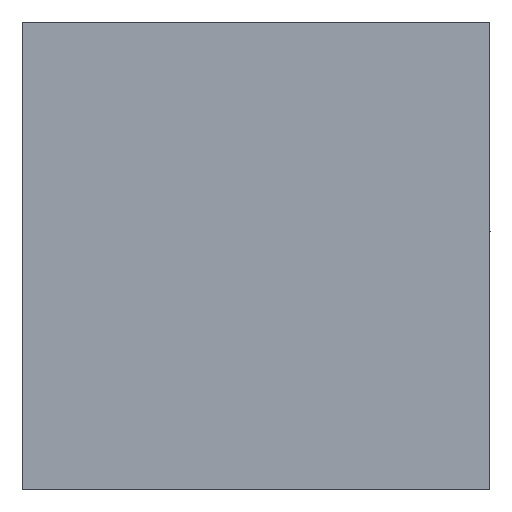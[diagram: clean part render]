
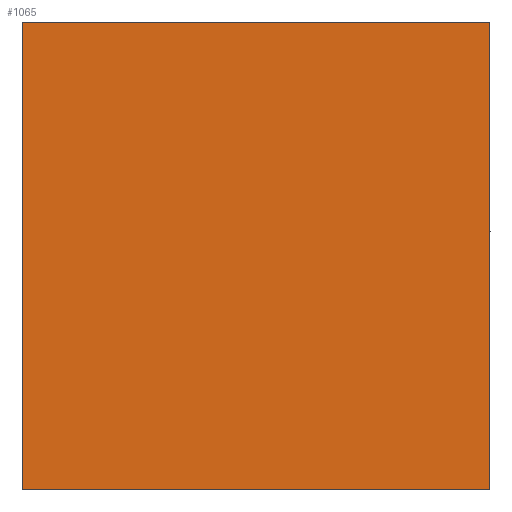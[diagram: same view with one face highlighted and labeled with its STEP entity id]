
A CAD part, front view. The second image highlights one B-rep face of the part: STEP entity #1065.
In plain terms, the highlighted planar face has unit normal (0, -1, 0).
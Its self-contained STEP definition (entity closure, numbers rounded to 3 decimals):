
#382=CARTESIAN_POINT('Vertex',(-50.,0.,50.)) ;
#385=CARTESIAN_POINT('Line Origine',(0.,0.,50.)) ;
#389=CARTESIAN_POINT('Vertex',(50.,0.,50.)) ;
#414=CARTESIAN_POINT('Vertex',(50.,0.,-50.)) ;
#417=CARTESIAN_POINT('Line Origine',(50.,0.,0.)) ;
#766=CARTESIAN_POINT('Vertex',(-50.,0.,-50.)) ;
#769=CARTESIAN_POINT('Line Origine',(0.,0.,-50.)) ;
#906=CARTESIAN_POINT('Line Origine',(-50.,0.,0.)) ;
#1054=CARTESIAN_POINT('Axis2P3D Location',(0.,0.,-0.)) ;
#386=DIRECTION('Vector Direction',(1.,0.,0.)) ;
#418=DIRECTION('Vector Direction',(0.,0.,-1.)) ;
#770=DIRECTION('Vector Direction',(-1.,0.,0.)) ;
#907=DIRECTION('Vector Direction',(0.,0.,1.)) ;
#1055=DIRECTION('Axis2P3D Direction',(0.,1.,-0.)) ;
#1056=DIRECTION('Axis2P3D XDirection',(0.,0.,1.)) ;
#1057=AXIS2_PLACEMENT_3D('Plane Axis2P3D',#1054,#1055,#1056) ;
#1060=ORIENTED_EDGE('',*,*,#773,.F.) ;
#1061=ORIENTED_EDGE('',*,*,#421,.F.) ;
#1062=ORIENTED_EDGE('',*,*,#391,.F.) ;
#1063=ORIENTED_EDGE('',*,*,#910,.F.) ;
#387=VECTOR('Line Direction',#386,1.) ;
#419=VECTOR('Line Direction',#418,1.) ;
#771=VECTOR('Line Direction',#770,1.) ;
#908=VECTOR('Line Direction',#907,1.) ;
#1065=ADVANCED_FACE('395V-04-100-250',(#1064),#1058,.F.) ;
#391=EDGE_CURVE('',#383,#390,#388,.T.) ;
#421=EDGE_CURVE('',#390,#415,#420,.T.) ;
#773=EDGE_CURVE('',#415,#767,#772,.T.) ;
#910=EDGE_CURVE('',#767,#383,#909,.T.) ;
#1059=EDGE_LOOP('',(#1060,#1061,#1062,#1063)) ;
#1064=FACE_OUTER_BOUND('',#1059,.T.) ;
#388=LINE('Line',#385,#387) ;
#420=LINE('Line',#417,#419) ;
#772=LINE('Line',#769,#771) ;
#909=LINE('Line',#906,#908) ;
#1058=PLANE('Plane',#1057) ;
#383=VERTEX_POINT('',#382) ;
#390=VERTEX_POINT('',#389) ;
#415=VERTEX_POINT('',#414) ;
#767=VERTEX_POINT('',#766) ;
